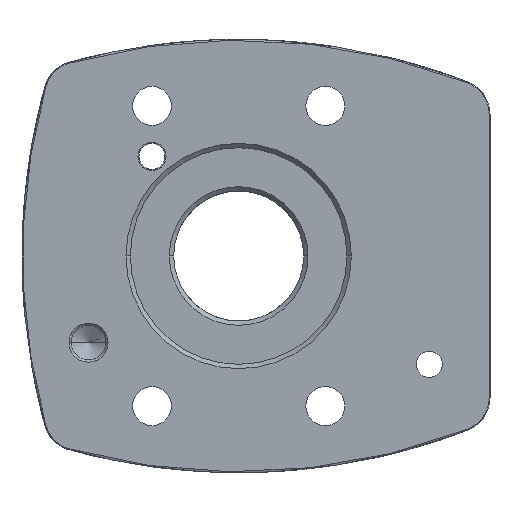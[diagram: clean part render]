
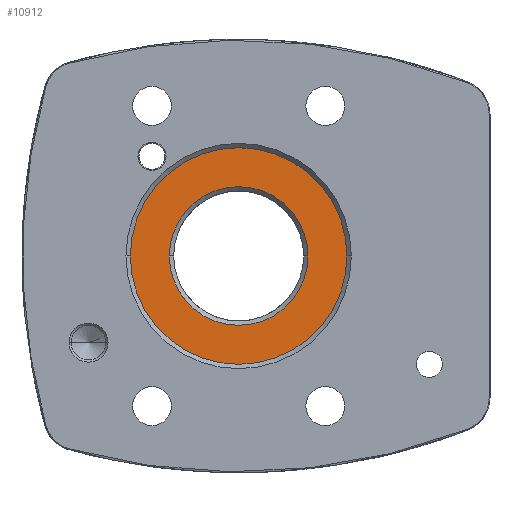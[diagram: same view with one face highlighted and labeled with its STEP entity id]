
A CAD part, front view. The second image highlights one B-rep face of the part: STEP entity #10912.
In plain terms, the highlighted planar face has unit normal (0, -1, 0).
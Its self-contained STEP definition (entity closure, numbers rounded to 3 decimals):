
#37 = EDGE_CURVE ( 'NONE', #10517, #32556, #12770, .T. ) ;
#56 = CARTESIAN_POINT ( 'NONE',  ( 0., -72.517, 0. ) ) ;
#682 = EDGE_CURVE ( 'NONE', #32556, #10517, #19397, .T. ) ;
#1696 = AXIS2_PLACEMENT_3D ( 'NONE', #30638, #32969, #14205 ) ;
#3581 = DIRECTION ( 'NONE',  ( -1., 0., 0. ) ) ;
#4704 = CARTESIAN_POINT ( 'NONE',  ( 0., -72.517, 0. ) ) ;
#4746 = EDGE_CURVE ( 'NONE', #32529, #8300, #11461, .T. ) ;
#6217 = ORIENTED_EDGE ( 'NONE', *, *, #37, .T. ) ;
#7063 = DIRECTION ( 'NONE',  ( 0., 1., 0. ) ) ;
#8287 = CARTESIAN_POINT ( 'NONE',  ( 0., -72.517, 0. ) ) ;
#8300 = VERTEX_POINT ( 'NONE', #34132 ) ;
#8975 = DIRECTION ( 'NONE',  ( 0., 1., 0. ) ) ;
#9155 = AXIS2_PLACEMENT_3D ( 'NONE', #56, #32255, #24313 ) ;
#10517 = VERTEX_POINT ( 'NONE', #16795 ) ;
#10912 = ADVANCED_FACE ( 'NONE', ( #18459, #23454 ), #16068, .T. ) ;
#10974 = DIRECTION ( 'NONE',  ( -1., 0., 0. ) ) ;
#11461 = CIRCLE ( 'NONE', #22269, 16. ) ;
#12770 = CIRCLE ( 'NONE', #14501, 25. ) ;
#13314 = EDGE_LOOP ( 'NONE', ( #28748, #6217 ) ) ;
#14205 = DIRECTION ( 'NONE',  ( -1., 0., 0. ) ) ;
#14501 = AXIS2_PLACEMENT_3D ( 'NONE', #8287, #27886, #10974 ) ;
#15756 = EDGE_LOOP ( 'NONE', ( #21427, #15874 ) ) ;
#15874 = ORIENTED_EDGE ( 'NONE', *, *, #4746, .T. ) ;
#16068 = PLANE ( 'NONE',  #9155 ) ;
#16792 = CARTESIAN_POINT ( 'NONE',  ( 0., -72.517, 0. ) ) ;
#16795 = CARTESIAN_POINT ( 'NONE',  ( 25., -72.517, 0. ) ) ;
#18459 = FACE_BOUND ( 'NONE', #15756, .T. ) ;
#19397 = CIRCLE ( 'NONE', #1696, 25. ) ;
#21427 = ORIENTED_EDGE ( 'NONE', *, *, #25016, .T. ) ;
#22269 = AXIS2_PLACEMENT_3D ( 'NONE', #4704, #7063, #26068 ) ;
#22279 = CARTESIAN_POINT ( 'NONE',  ( 16., -72.517, 0. ) ) ;
#22687 = AXIS2_PLACEMENT_3D ( 'NONE', #16792, #8975, #3581 ) ;
#23454 = FACE_OUTER_BOUND ( 'NONE', #13314, .T. ) ;
#24313 = DIRECTION ( 'NONE',  ( -1., 0., 0. ) ) ;
#25016 = EDGE_CURVE ( 'NONE', #8300, #32529, #31740, .T. ) ;
#26068 = DIRECTION ( 'NONE',  ( -1., 0., 0. ) ) ;
#27886 = DIRECTION ( 'NONE',  ( 0., -1., 0. ) ) ;
#28130 = CARTESIAN_POINT ( 'NONE',  ( -25., -72.517, 0. ) ) ;
#28748 = ORIENTED_EDGE ( 'NONE', *, *, #682, .T. ) ;
#30638 = CARTESIAN_POINT ( 'NONE',  ( 0., -72.517, 0. ) ) ;
#31740 = CIRCLE ( 'NONE', #22687, 16. ) ;
#32255 = DIRECTION ( 'NONE',  ( 0., -1., 0. ) ) ;
#32529 = VERTEX_POINT ( 'NONE', #22279 ) ;
#32556 = VERTEX_POINT ( 'NONE', #28130 ) ;
#32969 = DIRECTION ( 'NONE',  ( 0., -1., 0. ) ) ;
#34132 = CARTESIAN_POINT ( 'NONE',  ( -16., -72.517, 0. ) ) ;
